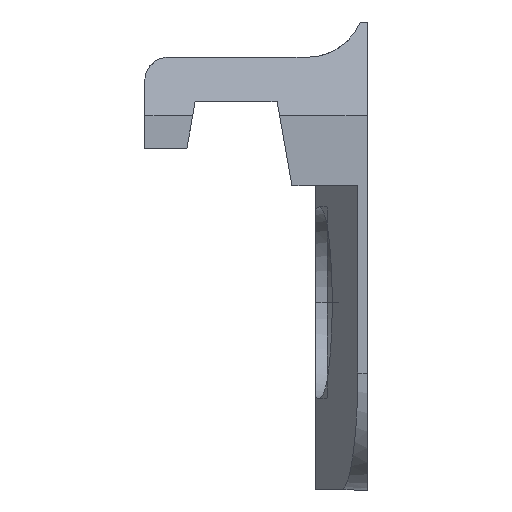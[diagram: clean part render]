
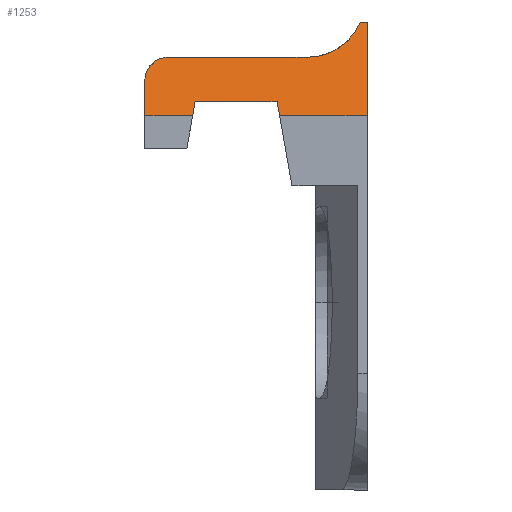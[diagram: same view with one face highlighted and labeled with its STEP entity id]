
A CAD part, front view. The second image highlights one B-rep face of the part: STEP entity #1253.
In plain terms, the highlighted planar face has unit normal (0, -0.574, 0.819).
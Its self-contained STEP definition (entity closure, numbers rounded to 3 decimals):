
#134 = AXIS2_PLACEMENT_3D ( 'NONE', #1318, #1320, #1321 ) ;
#315 = CARTESIAN_POINT ( 'NONE',  ( -9.5, 378.5, 295.085 ) ) ;
#316 = DIRECTION ( 'NONE',  ( 0., -0.819, -0.574 ) ) ;
#321 = CARTESIAN_POINT ( 'NONE',  ( -8.5, -31.5, 8. ) ) ;
#323 = CARTESIAN_POINT ( 'NONE',  ( -0.3, -25.787, 12. ) ) ;
#324 = DIRECTION ( 'NONE',  ( 1., 0., 0. ) ) ;
#328 = DIRECTION ( 'NONE',  ( -1., 0., 0. ) ) ;
#331 = CARTESIAN_POINT ( 'NONE',  ( -0.3, -25.787, 12. ) ) ;
#334 = CARTESIAN_POINT ( 'NONE',  ( -8.5, -27.93, 10.5 ) ) ;
#335 = CARTESIAN_POINT ( 'NONE',  ( -0.679, -27.124, 11.064 ) ) ;
#336 = CARTESIAN_POINT ( 'NONE',  ( -1.515, -27.93, 10.5 ) ) ;
#337 = CARTESIAN_POINT ( 'NONE',  ( -2.525, -27.93, 10.5 ) ) ;
#343 = DIRECTION ( 'NONE',  ( -1., 0., 0. ) ) ;
#346 = CARTESIAN_POINT ( 'NONE',  ( -8.5, -27.93, 10.5 ) ) ;
#349 = CARTESIAN_POINT ( 'NONE',  ( -3.85, -30.643, 8.6 ) ) ;
#350 = CARTESIAN_POINT ( 'NONE',  ( -9.086, -27.93, 10.5 ) ) ;
#351 = CARTESIAN_POINT ( 'NONE',  ( -9.5, -28.521, 10.086 ) ) ;
#352 = CARTESIAN_POINT ( 'NONE',  ( -9.5, -29.358, 9.5 ) ) ;
#357 = CARTESIAN_POINT ( 'NONE',  ( -53.755, 373.562, 291.627 ) ) ;
#358 = DIRECTION ( 'NONE',  ( 0.101, -0.815, -0.571 ) ) ;
#361 = CARTESIAN_POINT ( 'NONE',  ( 42.768, 375.288, 292.836 ) ) ;
#362 = DIRECTION ( 'NONE',  ( 0.101, 0.815, 0.571 ) ) ;
#374 = DIRECTION ( 'NONE',  ( 1., 0., 0. ) ) ;
#399 = CARTESIAN_POINT ( 'NONE',  ( -8.5, -31.5, 8. ) ) ;
#410 = DIRECTION ( 'NONE',  ( 1., 0., 0. ) ) ;
#505 = CARTESIAN_POINT ( 'NONE',  ( -2.525, -27.93, 10.5 ) ) ;
#507 = CARTESIAN_POINT ( 'NONE',  ( -8.5, -27.93, 10.5 ) ) ;
#509 = CARTESIAN_POINT ( 'NONE',  ( -9.5, -29.358, 9.5 ) ) ;
#510 = CARTESIAN_POINT ( 'NONE',  ( -7.35, -30.643, 8.6 ) ) ;
#513 = CARTESIAN_POINT ( 'NONE',  ( 0., -25.787, 12. ) ) ;
#542 = CARTESIAN_POINT ( 'NONE',  ( -3.744, -31.5, 8. ) ) ;
#551 = CARTESIAN_POINT ( 'NONE',  ( -3.85, -30.643, 8.6 ) ) ;
#553 = CARTESIAN_POINT ( 'NONE',  ( -0.3, -25.787, 12. ) ) ;
#558 = CARTESIAN_POINT ( 'NONE',  ( -7.456, -31.5, 8. ) ) ;
#566 = CARTESIAN_POINT ( 'NONE',  ( 0., -31.5, 8. ) ) ;
#571 = CARTESIAN_POINT ( 'NONE',  ( -9.5, -31.5, 8. ) ) ;
#779 = ORIENTED_EDGE ( 'NONE', *, *, #2095, .T. ) ;
#780 = ORIENTED_EDGE ( 'NONE', *, *, #2054, .T. ) ;
#781 = ORIENTED_EDGE ( 'NONE', *, *, #2161, .T. ) ;
#783 = ORIENTED_EDGE ( 'NONE', *, *, #2114, .T. ) ;
#784 = ORIENTED_EDGE ( 'NONE', *, *, #2128, .T. ) ;
#785 = ORIENTED_EDGE ( 'NONE', *, *, #2118, .T. ) ;
#786 = ORIENTED_EDGE ( 'NONE', *, *, #2092, .T. ) ;
#787 = ORIENTED_EDGE ( 'NONE', *, *, #2086, .T. ) ;
#788 = ORIENTED_EDGE ( 'NONE', *, *, #2107, .T. ) ;
#789 = ORIENTED_EDGE ( 'NONE', *, *, #2103, .T. ) ;
#790 = ORIENTED_EDGE ( 'NONE', *, *, #2099, .T. ) ;
#1253 = ADVANCED_FACE ( 'NONE', ( #2607 ), #1319, .F. ) ;
#1318 = CARTESIAN_POINT ( 'NONE',  ( -8.5, -31.5, 8. ) ) ;
#1319 = PLANE ( 'NONE',  #134 ) ;
#1320 = DIRECTION ( 'NONE',  ( 0., 0.574, -0.819 ) ) ;
#1321 = DIRECTION ( 'NONE',  ( 0., 0.819, 0.574 ) ) ;
#1831 = CARTESIAN_POINT ( 'NONE',  ( 0., 381.038, 296.862 ) ) ;
#1832 = DIRECTION ( 'NONE',  ( 0., 0.819, 0.574 ) ) ;
#2054 = EDGE_CURVE ( 'NONE', #3388, #3211, #2263, .T. ) ;
#2086 = EDGE_CURVE ( 'NONE', #3193, #3409, #2247, .T. ) ;
#2092 = EDGE_CURVE ( 'NONE', #3409, #3362, #2245, .T. ) ;
#2095 = EDGE_CURVE ( 'NONE', #3211, #3346, #2243, .T. ) ;
#2099 = EDGE_CURVE ( 'NONE', #3346, #3184, #3050, .T. ) ;
#2103 = EDGE_CURVE ( 'NONE', #3184, #3190, #2214, .T. ) ;
#2106 = VECTOR ( 'NONE', #410, 1000. ) ;
#2107 = EDGE_CURVE ( 'NONE', #3190, #3193, #3052, .T. ) ;
#2114 = EDGE_CURVE ( 'NONE', #3339, #3309, #2188, .T. ) ;
#2117 = LINE ( 'NONE', #399, #2106 ) ;
#2118 = EDGE_CURVE ( 'NONE', #3362, #3202, #2181, .T. ) ;
#2128 = EDGE_CURVE ( 'NONE', #3202, #3339, #2197, .T. ) ;
#2159 = VECTOR ( 'NONE', #374, 1000. ) ;
#2161 = EDGE_CURVE ( 'NONE', #3309, #3388, #2117, .T. ) ;
#2179 = VECTOR ( 'NONE', #362, 1000. ) ;
#2181 = LINE ( 'NONE', #361, #2179 ) ;
#2186 = VECTOR ( 'NONE', #358, 1000. ) ;
#2188 = LINE ( 'NONE', #357, #2186 ) ;
#2197 = LINE ( 'NONE', #349, #2159 ) ;
#2207 = VECTOR ( 'NONE', #343, 1000. ) ;
#2214 = LINE ( 'NONE', #334, #2207 ) ;
#2224 = VECTOR ( 'NONE', #328, 1000. ) ;
#2231 = VECTOR ( 'NONE', #324, 1000. ) ;
#2241 = VECTOR ( 'NONE', #316, 1000. ) ;
#2243 = LINE ( 'NONE', #323, #2224 ) ;
#2245 = LINE ( 'NONE', #321, #2231 ) ;
#2247 = LINE ( 'NONE', #315, #2241 ) ;
#2262 = VECTOR ( 'NONE', #1832, 1000. ) ;
#2263 = LINE ( 'NONE', #1831, #2262 ) ;
#2607 = FACE_OUTER_BOUND ( 'NONE', #2963, .T. ) ;
#2963 = EDGE_LOOP ( 'NONE', ( #790, #789, #788, #787, #786, #785, #784, #783, #781, #780, #779 ) ) ;
#3050 =( BOUNDED_CURVE ( )  B_SPLINE_CURVE ( 3, ( #331, #335, #336, #337 ),
 .UNSPECIFIED., .F., .T. ) 
 B_SPLINE_CURVE_WITH_KNOTS ( ( 4, 4 ),
 ( 5.097, 6.283 ),
 .UNSPECIFIED. ) 
 CURVE ( )  GEOMETRIC_REPRESENTATION_ITEM ( )  RATIONAL_B_SPLINE_CURVE ( ( 1., 0.886, 0.886, 1. ) ) 
 REPRESENTATION_ITEM ( '' )  );
#3052 =( BOUNDED_CURVE ( )  B_SPLINE_CURVE ( 3, ( #346, #350, #351, #352 ),
 .UNSPECIFIED., .F., .T. ) 
 B_SPLINE_CURVE_WITH_KNOTS ( ( 4, 4 ),
 ( 3.142, 4.712 ),
 .UNSPECIFIED. ) 
 CURVE ( )  GEOMETRIC_REPRESENTATION_ITEM ( )  RATIONAL_B_SPLINE_CURVE ( ( 1., 0.805, 0.805, 1. ) ) 
 REPRESENTATION_ITEM ( '' )  );
#3184 = VERTEX_POINT ( 'NONE', #505 ) ;
#3190 = VERTEX_POINT ( 'NONE', #507 ) ;
#3193 = VERTEX_POINT ( 'NONE', #509 ) ;
#3202 = VERTEX_POINT ( 'NONE', #510 ) ;
#3211 = VERTEX_POINT ( 'NONE', #513 ) ;
#3309 = VERTEX_POINT ( 'NONE', #542 ) ;
#3339 = VERTEX_POINT ( 'NONE', #551 ) ;
#3346 = VERTEX_POINT ( 'NONE', #553 ) ;
#3362 = VERTEX_POINT ( 'NONE', #558 ) ;
#3388 = VERTEX_POINT ( 'NONE', #566 ) ;
#3409 = VERTEX_POINT ( 'NONE', #571 ) ;
